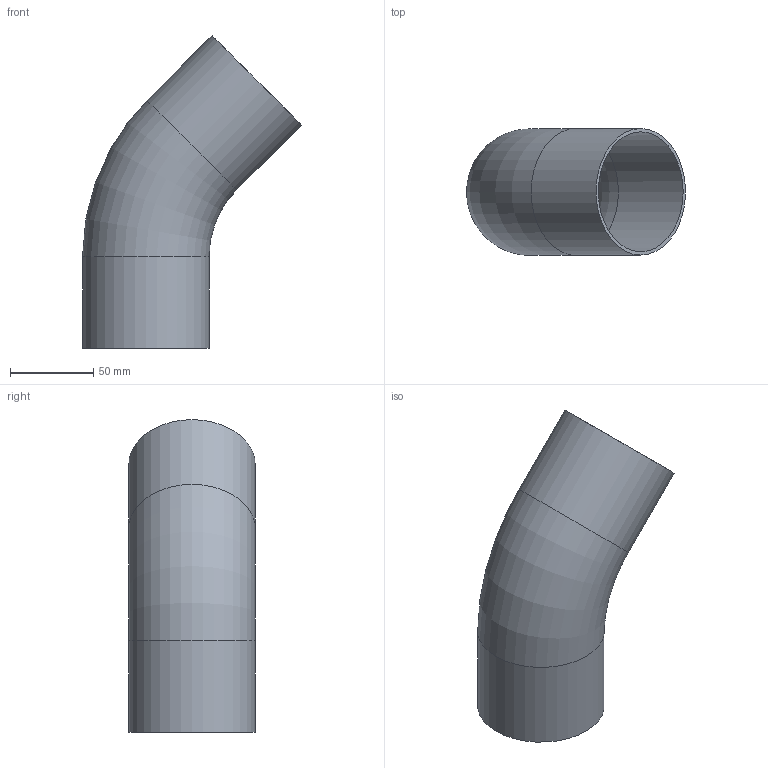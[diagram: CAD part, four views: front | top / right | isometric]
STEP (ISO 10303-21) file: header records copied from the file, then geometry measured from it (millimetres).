
FILE_DESCRIPTION(('Elbow 76,1x2_45 deg-Version 00'),'2;1');
FILE_NAME('E045_76,1x2_MR95_L94,4_00.stp','2013-09-04T12:25:02',(''),('DOCKWEILER AG'),'Autodesk Inventor 2012','Autodesk Inventor 2012','');
FILE_SCHEMA(('CONFIG_CONTROL_DESIGN'));
Length unit declared in the file: millimetre
Products named in the file (1): N0001_003_001
Bounding box: 131.71 x 76.1 x 188.06 mm (x, y, z)
Volume: 85999.1 mm3; surface area: 86930.2 mm2
Topology: 1 solids, 1 shells, 8 faces, 14 edges, 8 vertices
Faces by surface type: cylinder 4, torus 2, plane 2
Full cylindrical faces by diameter (mm): 72.1 x2, 76.1 x2
Entity records: 194 total; most frequent: DIRECTION 34, CARTESIAN_POINT 25, AXIS2_PLACEMENT_3D 17, ORIENTED_EDGE 16, EDGE_LOOP 16, VERTEX_POINT 8, CIRCLE 8, EDGE_CURVE 8
